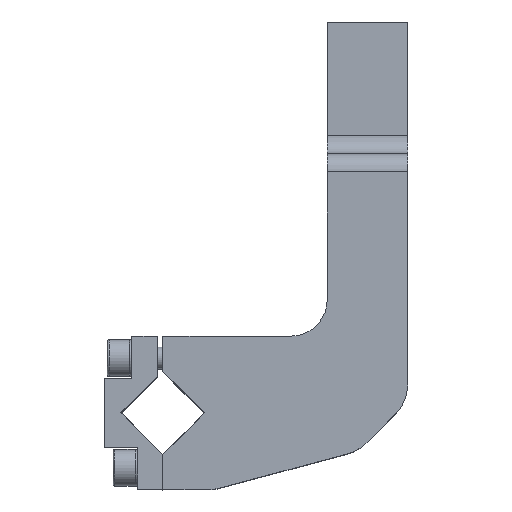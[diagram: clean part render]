
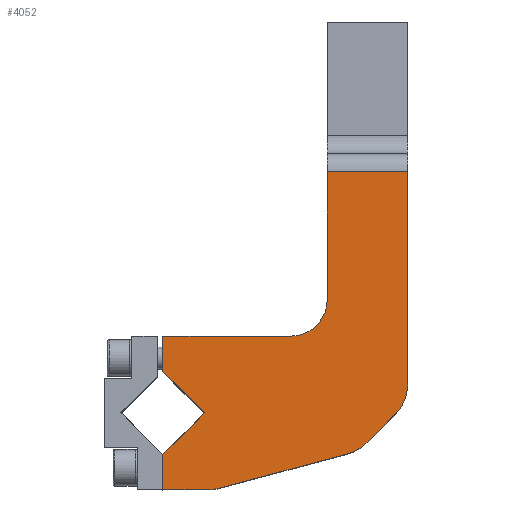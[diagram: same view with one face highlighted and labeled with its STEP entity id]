
A CAD part, top view. The second image highlights one B-rep face of the part: STEP entity #4052.
In plain terms, the highlighted planar face has unit normal (0, 0, 1).
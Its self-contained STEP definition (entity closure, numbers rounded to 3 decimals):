
#529=CARTESIAN_POINT('Vertex',(67.,7.971,27.)) ;
#532=CARTESIAN_POINT('Axis2P3D Location',(55.,7.971,27.)) ;
#536=CARTESIAN_POINT('Vertex',(63.485,-0.515,27.)) ;
#1334=CARTESIAN_POINT('Vertex',(0.,11.455,27.)) ;
#1337=CARTESIAN_POINT('Line Origine',(0.,16.228,27.)) ;
#1341=CARTESIAN_POINT('Vertex',(0.,21.,27.)) ;
#1375=CARTESIAN_POINT('Line Origine',(17.5,21.,27.)) ;
#1379=CARTESIAN_POINT('Vertex',(35.,21.,27.)) ;
#1394=CARTESIAN_POINT('Axis2P3D Location',(35.,31.,27.)) ;
#1398=CARTESIAN_POINT('Vertex',(45.,31.,27.)) ;
#1413=CARTESIAN_POINT('Line Origine',(59.687,-4.313,27.)) ;
#1417=CARTESIAN_POINT('Vertex',(55.888,-8.112,27.)) ;
#1432=CARTESIAN_POINT('Axis2P3D Location',(47.403,0.374,27.)) ;
#1436=CARTESIAN_POINT('Vertex',(50.509,-11.217,27.)) ;
#1451=CARTESIAN_POINT('Line Origine',(33.017,-15.904,27.)) ;
#1455=CARTESIAN_POINT('Vertex',(15.526,-20.591,27.)) ;
#1470=CARTESIAN_POINT('Axis2P3D Location',(12.42,-9.,27.)) ;
#1474=CARTESIAN_POINT('Vertex',(12.42,-21.,27.)) ;
#1489=CARTESIAN_POINT('Line Origine',(6.21,-21.,27.)) ;
#1493=CARTESIAN_POINT('Vertex',(0.,-21.,27.)) ;
#1508=CARTESIAN_POINT('Line Origine',(0.,-16.228,27.)) ;
#1512=CARTESIAN_POINT('Vertex',(0.,-11.455,27.)) ;
#1555=CARTESIAN_POINT('Vertex',(11.455,0.,27.)) ;
#1558=CARTESIAN_POINT('Line Origine',(5.728,5.728,27.)) ;
#1575=CARTESIAN_POINT('Line Origine',(5.728,-5.728,27.)) ;
#4011=CARTESIAN_POINT('Axis2P3D Location',(0.,0.,27.)) ;
#4016=CARTESIAN_POINT('Line Origine',(45.,48.5,27.)) ;
#4020=CARTESIAN_POINT('Vertex',(45.,66.,27.)) ;
#4023=CARTESIAN_POINT('Line Origine',(67.,36.985,27.)) ;
#4027=CARTESIAN_POINT('Vertex',(67.,66.,27.)) ;
#4030=CARTESIAN_POINT('Line Origine',(56.,66.,27.)) ;
#533=DIRECTION('Axis2P3D Direction',(0.,0.,1.)) ;
#1338=DIRECTION('Vector Direction',(0.,1.,0.)) ;
#1376=DIRECTION('Vector Direction',(1.,0.,0.)) ;
#1395=DIRECTION('Axis2P3D Direction',(0.,0.,1.)) ;
#1414=DIRECTION('Vector Direction',(-0.707,-0.707,0.)) ;
#1433=DIRECTION('Axis2P3D Direction',(0.,0.,1.)) ;
#1452=DIRECTION('Vector Direction',(-0.966,-0.259,0.)) ;
#1471=DIRECTION('Axis2P3D Direction',(0.,0.,1.)) ;
#1490=DIRECTION('Vector Direction',(-1.,0.,0.)) ;
#1509=DIRECTION('Vector Direction',(0.,1.,0.)) ;
#1559=DIRECTION('Vector Direction',(-0.707,0.707,0.)) ;
#1576=DIRECTION('Vector Direction',(0.707,0.707,0.)) ;
#4012=DIRECTION('Axis2P3D Direction',(0.,0.,1.)) ;
#4013=DIRECTION('Axis2P3D XDirection',(1.,0.,0.)) ;
#4017=DIRECTION('Vector Direction',(0.,1.,0.)) ;
#4024=DIRECTION('Vector Direction',(0.,-1.,0.)) ;
#4031=DIRECTION('Vector Direction',(1.,0.,0.)) ;
#534=AXIS2_PLACEMENT_3D('Circle Axis2P3D',#532,#533,$) ;
#1396=AXIS2_PLACEMENT_3D('Circle Axis2P3D',#1394,#1395,$) ;
#1434=AXIS2_PLACEMENT_3D('Circle Axis2P3D',#1432,#1433,$) ;
#1472=AXIS2_PLACEMENT_3D('Circle Axis2P3D',#1470,#1471,$) ;
#4014=AXIS2_PLACEMENT_3D('Plane Axis2P3D',#4011,#4012,#4013) ;
#4036=ORIENTED_EDGE('',*,*,#4022,.T.) ;
#4037=ORIENTED_EDGE('',*,*,#1400,.T.) ;
#4038=ORIENTED_EDGE('',*,*,#1381,.T.) ;
#4039=ORIENTED_EDGE('',*,*,#1343,.T.) ;
#4040=ORIENTED_EDGE('',*,*,#1562,.T.) ;
#4041=ORIENTED_EDGE('',*,*,#1579,.T.) ;
#4042=ORIENTED_EDGE('',*,*,#1514,.T.) ;
#4043=ORIENTED_EDGE('',*,*,#1495,.T.) ;
#4044=ORIENTED_EDGE('',*,*,#1476,.T.) ;
#4045=ORIENTED_EDGE('',*,*,#1457,.T.) ;
#4046=ORIENTED_EDGE('',*,*,#1438,.T.) ;
#4047=ORIENTED_EDGE('',*,*,#1419,.T.) ;
#4048=ORIENTED_EDGE('',*,*,#538,.T.) ;
#4049=ORIENTED_EDGE('',*,*,#4029,.T.) ;
#4050=ORIENTED_EDGE('',*,*,#4034,.F.) ;
#1339=VECTOR('Line Direction',#1338,1.) ;
#1377=VECTOR('Line Direction',#1376,1.) ;
#1415=VECTOR('Line Direction',#1414,1.) ;
#1453=VECTOR('Line Direction',#1452,1.) ;
#1491=VECTOR('Line Direction',#1490,1.) ;
#1510=VECTOR('Line Direction',#1509,1.) ;
#1560=VECTOR('Line Direction',#1559,1.) ;
#1577=VECTOR('Line Direction',#1576,1.) ;
#4018=VECTOR('Line Direction',#4017,1.) ;
#4025=VECTOR('Line Direction',#4024,1.) ;
#4032=VECTOR('Line Direction',#4031,1.) ;
#4052=ADVANCED_FACE('Brep With Voids',(#4051),#4015,.T.) ;
#535=CIRCLE('generated circle',#534,12.) ;
#1397=CIRCLE('generated circle',#1396,10.) ;
#1435=CIRCLE('generated circle',#1434,12.) ;
#1473=CIRCLE('generated circle',#1472,12.) ;
#538=EDGE_CURVE('',#537,#530,#535,.T.) ;
#1343=EDGE_CURVE('',#1342,#1335,#1340,.F.) ;
#1381=EDGE_CURVE('',#1380,#1342,#1378,.F.) ;
#1400=EDGE_CURVE('',#1399,#1380,#1397,.F.) ;
#1419=EDGE_CURVE('',#1418,#537,#1416,.F.) ;
#1438=EDGE_CURVE('',#1437,#1418,#1435,.T.) ;
#1457=EDGE_CURVE('',#1456,#1437,#1454,.F.) ;
#1476=EDGE_CURVE('',#1475,#1456,#1473,.T.) ;
#1495=EDGE_CURVE('',#1494,#1475,#1492,.F.) ;
#1514=EDGE_CURVE('',#1513,#1494,#1511,.F.) ;
#1562=EDGE_CURVE('',#1335,#1556,#1561,.F.) ;
#1579=EDGE_CURVE('',#1556,#1513,#1578,.F.) ;
#4022=EDGE_CURVE('',#4021,#1399,#4019,.F.) ;
#4029=EDGE_CURVE('',#530,#4028,#4026,.F.) ;
#4034=EDGE_CURVE('',#4021,#4028,#4033,.T.) ;
#4035=EDGE_LOOP('',(#4036,#4037,#4038,#4039,#4040,#4041,#4042,#4043,#4044,#4045,#4046,#4047,#4048,#4049,#4050)) ;
#4051=FACE_OUTER_BOUND('',#4035,.T.) ;
#1340=LINE('Line',#1337,#1339) ;
#1378=LINE('Line',#1375,#1377) ;
#1416=LINE('Line',#1413,#1415) ;
#1454=LINE('Line',#1451,#1453) ;
#1492=LINE('Line',#1489,#1491) ;
#1511=LINE('Line',#1508,#1510) ;
#1561=LINE('Line',#1558,#1560) ;
#1578=LINE('Line',#1575,#1577) ;
#4019=LINE('Line',#4016,#4018) ;
#4026=LINE('Line',#4023,#4025) ;
#4033=LINE('Line',#4030,#4032) ;
#4015=PLANE('Plane',#4014) ;
#530=VERTEX_POINT('',#529) ;
#537=VERTEX_POINT('',#536) ;
#1335=VERTEX_POINT('',#1334) ;
#1342=VERTEX_POINT('',#1341) ;
#1380=VERTEX_POINT('',#1379) ;
#1399=VERTEX_POINT('',#1398) ;
#1418=VERTEX_POINT('',#1417) ;
#1437=VERTEX_POINT('',#1436) ;
#1456=VERTEX_POINT('',#1455) ;
#1475=VERTEX_POINT('',#1474) ;
#1494=VERTEX_POINT('',#1493) ;
#1513=VERTEX_POINT('',#1512) ;
#1556=VERTEX_POINT('',#1555) ;
#4021=VERTEX_POINT('',#4020) ;
#4028=VERTEX_POINT('',#4027) ;
